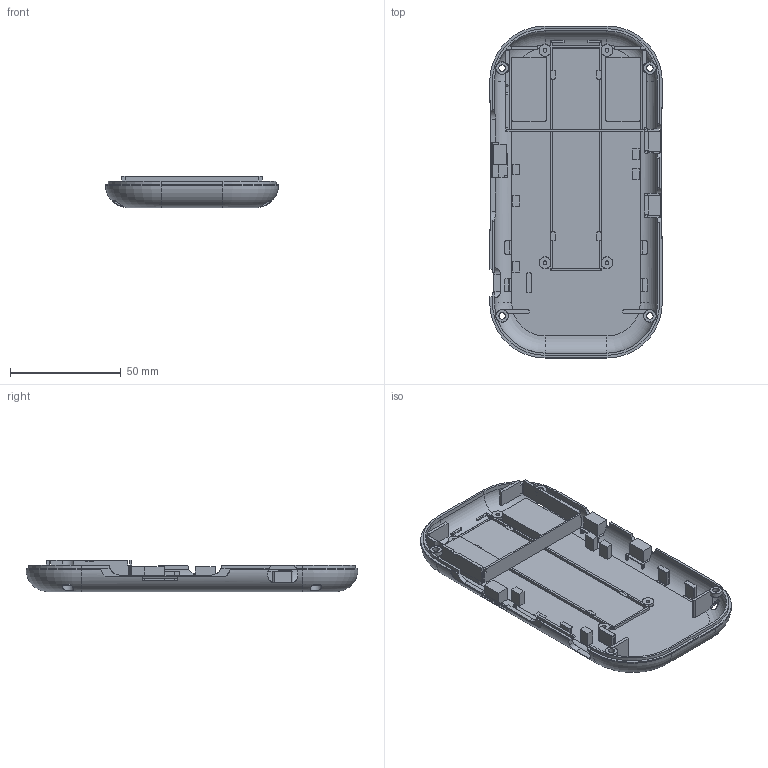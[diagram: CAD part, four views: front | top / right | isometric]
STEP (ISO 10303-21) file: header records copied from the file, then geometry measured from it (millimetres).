
FILE_DESCRIPTION(/* description */ (''),/* implementation_level */ '2;1');
FILE_NAME(/* name */ 'C28_R3_02_Back_Shell_Cassette_Keepers.step',/* time_stamp */ '2026-09-10T17:48:19-07:00',/* author */ (''),/* organization */ (''),/* preprocessor_version */ 'ST-DEVELOPER v20.1',/* originating_system */ 'Autodesk Translation Framework v15.8.0.0',/* authorisation */ '');
FILE_SCHEMA (('AUTOMOTIVE_DESIGN { 1 0 10303 214 3 1 1 }'));
Length unit declared in the file: millimetre
Products named in the file (1): 2026-09-10-17-48-19-560
Bounding box: 78 x 150 x 14.15 mm (x, y, z)
Volume: 33955.1 mm3; surface area: 34275.7 mm2
Topology: 1 solids, 1 shells, 1204 faces, 3419 edges, 2262 vertices
Faces by surface type: plane 606, bspline 352, cylinder 226, cone 12, torus 8
Full cylindrical faces by diameter (mm): 1.7 x4, 2.9 x4
Entity records: 44330 total; most frequent: CARTESIAN_POINT 15086, ORIENTED_EDGE 6838, DIRECTION 4853, EDGE_CURVE 3419, VERTEX_POINT 2262, LINE 2003, VECTOR 2003, AXIS2_PLACEMENT_3D 1425
